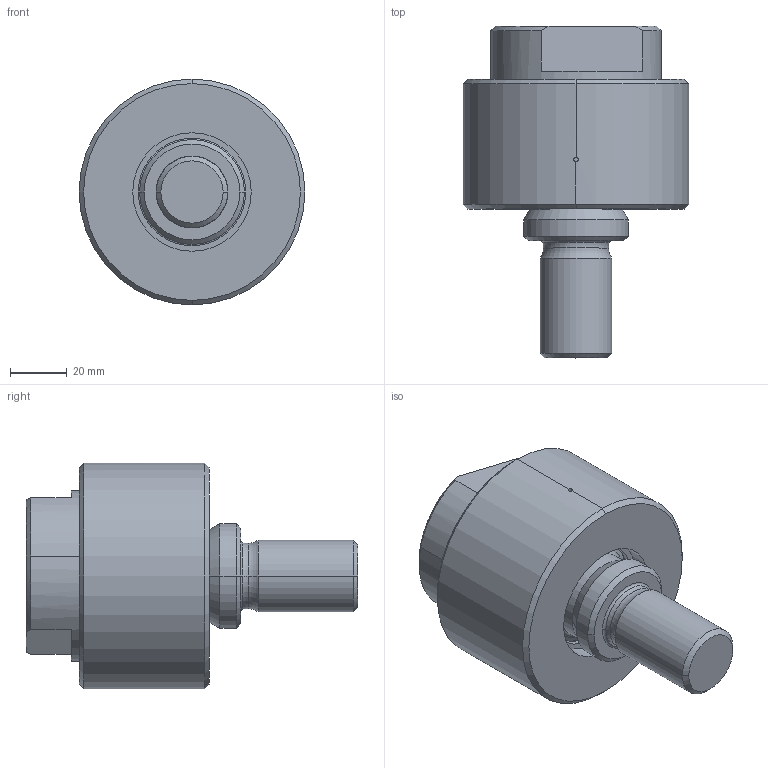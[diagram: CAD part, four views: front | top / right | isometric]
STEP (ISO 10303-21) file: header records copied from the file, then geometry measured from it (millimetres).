
FILE_DESCRIPTION (( 'STEP AP203' ), '1' );
FILE_NAME ('M040-10014.STEP', '2015-02-10T13:35:48', ( '' ), ( '' ), 'SwSTEP 2.0', 'SolidWorks 2014', '' );
FILE_SCHEMA (( 'CONFIG_CONTROL_DESIGN' ));
Length unit declared in the file: inch
Products named in the file (1): M040-10014
Bounding box: 79.38 x 116.64 x 79.38 mm (x, y, z)
Volume: 274877.5 mm3; surface area: 59785.2 mm2
Topology: 5 solids, 5 shells, 93 faces, 210 edges, 126 vertices
Faces by surface type: cylinder 30, torus 20, cone 19, plane 16, sphere 8
Entity records: 2752 total; most frequent: DIRECTION 523, CARTESIAN_POINT 500, ORIENTED_EDGE 416, AXIS2_PLACEMENT_3D 233, EDGE_CURVE 208, CIRCLE 139, VERTEX_POINT 126, EDGE_LOOP 102
